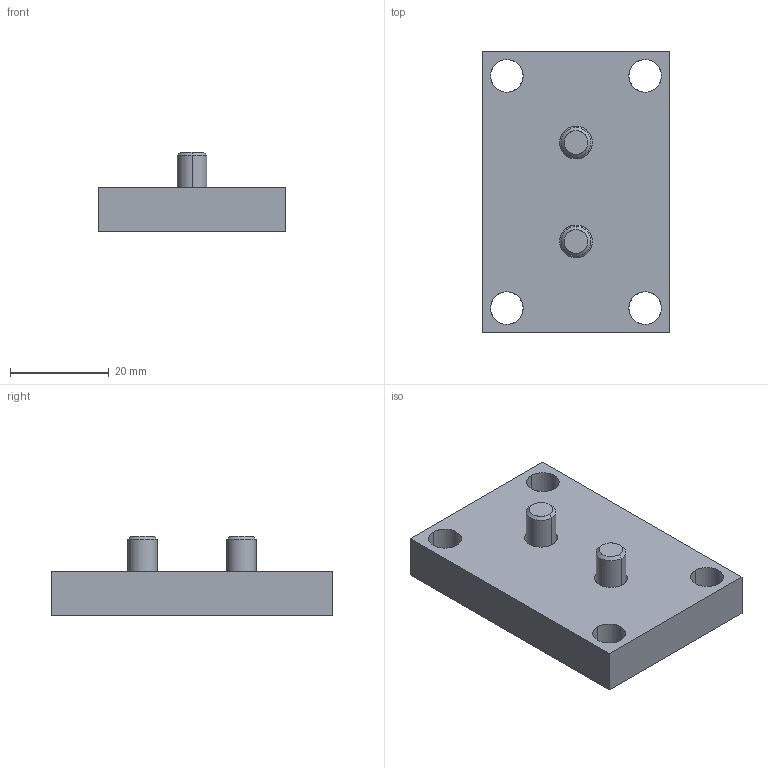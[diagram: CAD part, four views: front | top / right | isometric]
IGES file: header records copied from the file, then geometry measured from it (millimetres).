
Global section: file name: E:\UnigraphicsGraphicData\MISUMI_PRESS-PARTS\IGES\3d_hm-38_04127_r00.igs; native system: NX V5.0; preprocessor: UGS NX IGES V5.0; author: MISUMI; date: 20110105.161017; units: millimetre
Bounding box: 38 x 57 x 16 mm (x, y, z)
Surface area: 7785.2 mm2 (no closed solid volume)
Topology: 0 solids, 0 shells, 52 faces, 336 edges, 336 vertices
Faces by surface type: bspline 52
